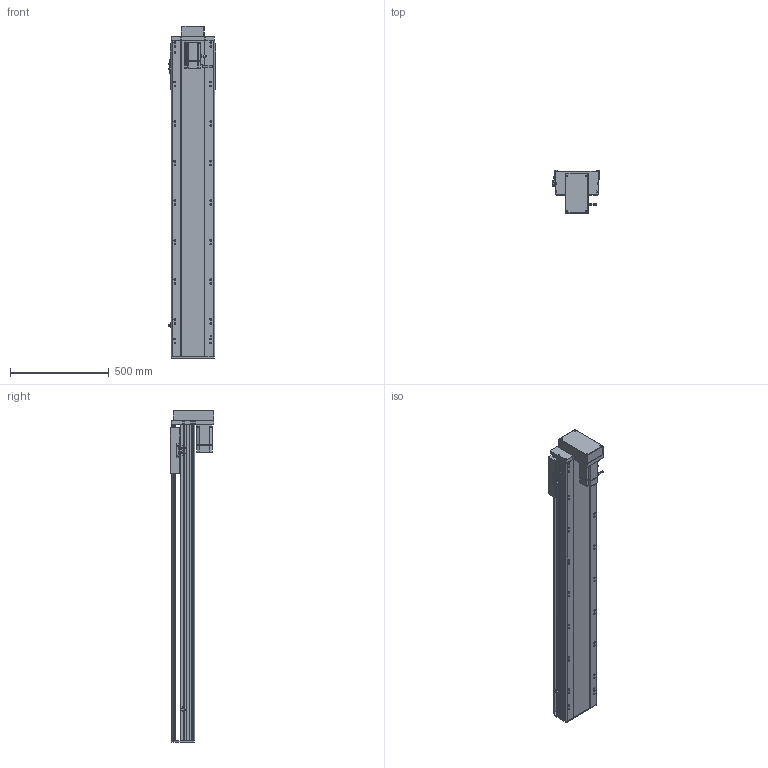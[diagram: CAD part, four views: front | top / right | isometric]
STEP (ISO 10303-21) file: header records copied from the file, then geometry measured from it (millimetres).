
FILE_DESCRIPTION (( 'STEP AP214' ), '1' );
FILE_NAME ('RTH22-XX-1300-M-M75-C4.STEP', '2025-10-24T11:14:21', ( 'Microsoft' ), ( 'Microsoft' ), 'SwSTEP 2.0', 'SolidWorks 2018', '' );
FILE_SCHEMA (( 'AUTOMOTIVE_DESIGN' ));
Length unit declared in the file: millimetre
Products named in the file (10): N_RTH22-M-018裔赽^RTH22-XX-XX-M-M75-C4; N_RTH22-GY-013外置感应片^RTH22-XX-XX-M-M75-C4; N_750W萇儂^RTH22-XX-XX-M-M75-C4; N_OMRON EE-SX672 传感器^RTH22-XX-XX-M-M75-C4; N_RTH22-M-007奻裔^RTH22-XX-XX-M-M75-C4; N_RTH22-M-008-P75萇儂啣^RTH22-XX-XX-M-M75-C4; N_RTH22-GY-001耜裔^RTH22-XX-XX-M-M75-C4; N_RTH22-L-011菁釱^RTH22-XX-XX-M-M75-C4; N_RTH22-L-004-SFS25賑釱^RTH22-XX-XX-M-M75-C4; RTH22-XX-1300-M-M75-C4
Assembly tree (11 placements, depth 2):
  RTH22-XX-1300-M-M75-C4
    N_RTH22-L-011菁釱^RTH22-XX-XX-M-M75-C4
    N_RTH22-GY-001耜裔^RTH22-XX-XX-M-M75-C4
    N_750W萇儂^RTH22-XX-XX-M-M75-C4
    N_RTH22-M-008-P75萇儂啣^RTH22-XX-XX-M-M75-C4
    N_RTH22-M-007奻裔^RTH22-XX-XX-M-M75-C4
    N_RTH22-M-018裔赽^RTH22-XX-XX-M-M75-C4
    N_OMRON EE-SX672 传感器^RTH22-XX-XX-M-M75-C4  x3
    N_RTH22-GY-013外置感应片^RTH22-XX-XX-M-M75-C4
    N_RTH22-L-004-SFS25賑釱^RTH22-XX-XX-M-M75-C4
Bounding box: 238.5 x 218.5 x 1679.7 mm (x, y, z)
Volume: 22339549.5 mm3; surface area: 2413808.2 mm2
Topology: 11 solids, 11 shells, 1659 faces, 4530 edges, 2915 vertices
Faces by surface type: plane 811, cylinder 499, bspline 279, cone 70
Entity records: 42315 total; most frequent: CARTESIAN_POINT 12660, ORIENTED_EDGE 6012, DIRECTION 5720, EDGE_CURVE 3006, VERTEX_POINT 1951, AXIS2_PLACEMENT_3D 1939, LINE 1842, VECTOR 1842
